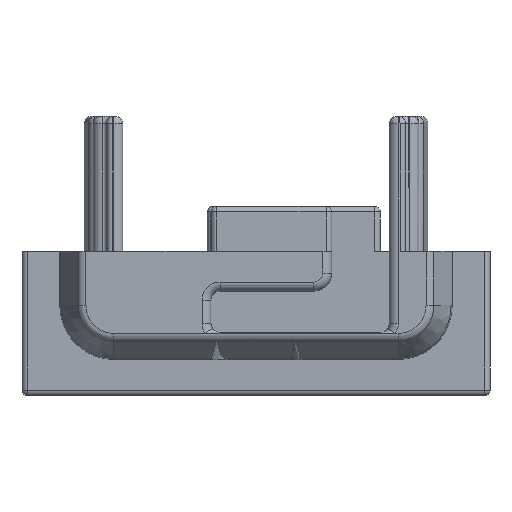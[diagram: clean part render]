
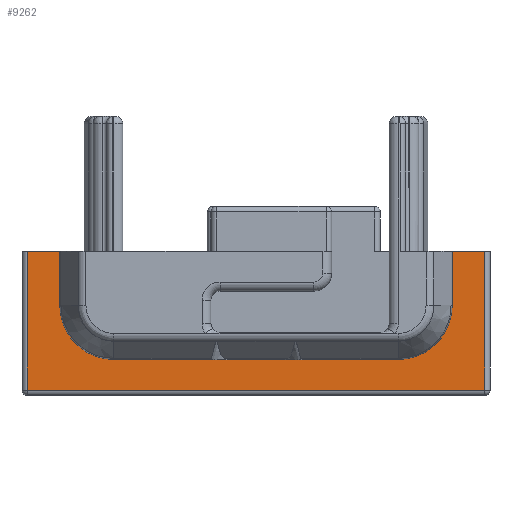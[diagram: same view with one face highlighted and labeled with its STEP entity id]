
A CAD part, front view. The second image highlights one B-rep face of the part: STEP entity #9262.
In plain terms, the highlighted planar face has unit normal (0, -1, 0).
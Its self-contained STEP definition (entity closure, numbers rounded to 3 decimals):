
#71 = PLANE ( 'NONE',  #2262 ) ;
#117 = ORIENTED_EDGE ( 'NONE', *, *, #9595, .F. ) ;
#305 = DIRECTION ( 'NONE',  ( 1., 0., 0. ) ) ;
#639 = LINE ( 'NONE', #8829, #11920 ) ;
#713 = DIRECTION ( 'NONE',  ( 1., 0., 0. ) ) ;
#794 = VERTEX_POINT ( 'NONE', #13029 ) ;
#1054 = DIRECTION ( 'NONE',  ( 0., 0., 1. ) ) ;
#1119 = CARTESIAN_POINT ( 'NONE',  ( 10.9, 9.6, -8. ) ) ;
#1253 = VECTOR ( 'NONE', #1054, 1000. ) ;
#1724 = VERTEX_POINT ( 'NONE', #5087 ) ;
#1959 = CARTESIAN_POINT ( 'NONE',  ( 12.7, 9.6, -8. ) ) ;
#1970 = EDGE_CURVE ( 'NONE', #794, #2487, #11260, .T. ) ;
#2005 = CARTESIAN_POINT ( 'NONE',  ( 10.9, 9.6, -3. ) ) ;
#2027 = ORIENTED_EDGE ( 'NONE', *, *, #10303, .T. ) ;
#2091 = DIRECTION ( 'NONE',  ( 0., 0., 1. ) ) ;
#2262 = AXIS2_PLACEMENT_3D ( 'NONE', #1119, #3834, #10889 ) ;
#2341 = CARTESIAN_POINT ( 'NONE',  ( -10.9, 9.6, 0. ) ) ;
#2487 = VERTEX_POINT ( 'NONE', #2341 ) ;
#2668 = VECTOR ( 'NONE', #305, 1000. ) ;
#2700 = DIRECTION ( 'NONE',  ( 0., 0., 1. ) ) ;
#2821 = LINE ( 'NONE', #8841, #10424 ) ;
#2972 = DIRECTION ( 'NONE',  ( 0., 0., 1. ) ) ;
#3345 = LINE ( 'NONE', #5507, #2668 ) ;
#3776 = ORIENTED_EDGE ( 'NONE', *, *, #7431, .F. ) ;
#3801 = DIRECTION ( 'NONE',  ( 1., 0., 0. ) ) ;
#3834 = DIRECTION ( 'NONE',  ( 0., -1., 0. ) ) ;
#3838 = VERTEX_POINT ( 'NONE', #11406 ) ;
#4064 = EDGE_CURVE ( 'NONE', #6518, #11338, #8193, .T. ) ;
#4323 = CARTESIAN_POINT ( 'NONE',  ( 12.7, 9.6, 0. ) ) ;
#4584 = VERTEX_POINT ( 'NONE', #8458 ) ;
#4588 = CARTESIAN_POINT ( 'NONE',  ( -7.9, 9.6, -3. ) ) ;
#4776 = DIRECTION ( 'NONE',  ( 0., 0., -1. ) ) ;
#4928 = LINE ( 'NONE', #1959, #12565 ) ;
#4950 = VERTEX_POINT ( 'NONE', #9424 ) ;
#5007 = CARTESIAN_POINT ( 'NONE',  ( -12.7, 9.6, 0. ) ) ;
#5087 = CARTESIAN_POINT ( 'NONE',  ( -7.9, 9.6, -6. ) ) ;
#5141 = ORIENTED_EDGE ( 'NONE', *, *, #8610, .F. ) ;
#5409 = CIRCLE ( 'NONE', #5623, 3. ) ;
#5507 = CARTESIAN_POINT ( 'NONE',  ( -7.9, 9.6, -6. ) ) ;
#5623 = AXIS2_PLACEMENT_3D ( 'NONE', #4588, #11768, #4776 ) ;
#5632 = AXIS2_PLACEMENT_3D ( 'NONE', #12946, #11887, #5942 ) ;
#5665 = VERTEX_POINT ( 'NONE', #12436 ) ;
#5942 = DIRECTION ( 'NONE',  ( 0., 0., -1. ) ) ;
#6216 = VECTOR ( 'NONE', #2700, 1000. ) ;
#6360 = EDGE_CURVE ( 'NONE', #1724, #5665, #3345, .T. ) ;
#6518 = VERTEX_POINT ( 'NONE', #2005 ) ;
#6542 = ORIENTED_EDGE ( 'NONE', *, *, #6360, .F. ) ;
#7005 = ORIENTED_EDGE ( 'NONE', *, *, #7195, .T. ) ;
#7195 = EDGE_CURVE ( 'NONE', #4584, #11018, #4928, .T. ) ;
#7431 = EDGE_CURVE ( 'NONE', #11338, #11018, #639, .T. ) ;
#7472 = VECTOR ( 'NONE', #12070, 1000. ) ;
#7797 = ORIENTED_EDGE ( 'NONE', *, *, #4064, .F. ) ;
#7955 = ORIENTED_EDGE ( 'NONE', *, *, #10283, .F. ) ;
#8193 = LINE ( 'NONE', #12017, #11517 ) ;
#8458 = CARTESIAN_POINT ( 'NONE',  ( 12.7, 9.6, -7.7 ) ) ;
#8610 = EDGE_CURVE ( 'NONE', #794, #1724, #5409, .T. ) ;
#8829 = CARTESIAN_POINT ( 'NONE',  ( 10.9, 9.6, 0. ) ) ;
#8841 = CARTESIAN_POINT ( 'NONE',  ( 12.7, 9.6, -7.7 ) ) ;
#9150 = EDGE_CURVE ( 'NONE', #5665, #6518, #11749, .T. ) ;
#9262 = ADVANCED_FACE ( 'NONE', ( #11084 ), #71, .T. ) ;
#9424 = CARTESIAN_POINT ( 'NONE',  ( -12.7, 9.6, -7.7 ) ) ;
#9595 = EDGE_CURVE ( 'NONE', #3838, #2487, #11867, .T. ) ;
#9822 = CARTESIAN_POINT ( 'NONE',  ( -12.7, 9.6, -8. ) ) ;
#10247 = CARTESIAN_POINT ( 'NONE',  ( 10.9, 9.6, 0. ) ) ;
#10283 = EDGE_CURVE ( 'NONE', #4950, #3838, #10677, .T. ) ;
#10303 = EDGE_CURVE ( 'NONE', #4950, #4584, #2821, .T. ) ;
#10424 = VECTOR ( 'NONE', #713, 1000. ) ;
#10677 = LINE ( 'NONE', #9822, #6216 ) ;
#10889 = DIRECTION ( 'NONE',  ( 1., 0., 0. ) ) ;
#11018 = VERTEX_POINT ( 'NONE', #4323 ) ;
#11084 = FACE_OUTER_BOUND ( 'NONE', #11478, .T. ) ;
#11113 = ORIENTED_EDGE ( 'NONE', *, *, #9150, .F. ) ;
#11260 = LINE ( 'NONE', #12140, #1253 ) ;
#11338 = VERTEX_POINT ( 'NONE', #10247 ) ;
#11406 = CARTESIAN_POINT ( 'NONE',  ( -12.7, 9.6, 0. ) ) ;
#11478 = EDGE_LOOP ( 'NONE', ( #7955, #2027, #7005, #3776, #7797, #11113, #6542, #5141, #12022, #117 ) ) ;
#11517 = VECTOR ( 'NONE', #2972, 1000. ) ;
#11749 = CIRCLE ( 'NONE', #5632, 3. ) ;
#11768 = DIRECTION ( 'NONE',  ( 0., -1., 0. ) ) ;
#11867 = LINE ( 'NONE', #5007, #7472 ) ;
#11887 = DIRECTION ( 'NONE',  ( 0., -1., 0. ) ) ;
#11920 = VECTOR ( 'NONE', #3801, 1000. ) ;
#12017 = CARTESIAN_POINT ( 'NONE',  ( 10.9, 9.6, -8. ) ) ;
#12022 = ORIENTED_EDGE ( 'NONE', *, *, #1970, .T. ) ;
#12070 = DIRECTION ( 'NONE',  ( 1., 0., 0. ) ) ;
#12140 = CARTESIAN_POINT ( 'NONE',  ( -10.9, 9.6, -8. ) ) ;
#12436 = CARTESIAN_POINT ( 'NONE',  ( 7.9, 9.6, -6. ) ) ;
#12565 = VECTOR ( 'NONE', #2091, 1000. ) ;
#12946 = CARTESIAN_POINT ( 'NONE',  ( 7.9, 9.6, -3. ) ) ;
#13029 = CARTESIAN_POINT ( 'NONE',  ( -10.9, 9.6, -3. ) ) ;
